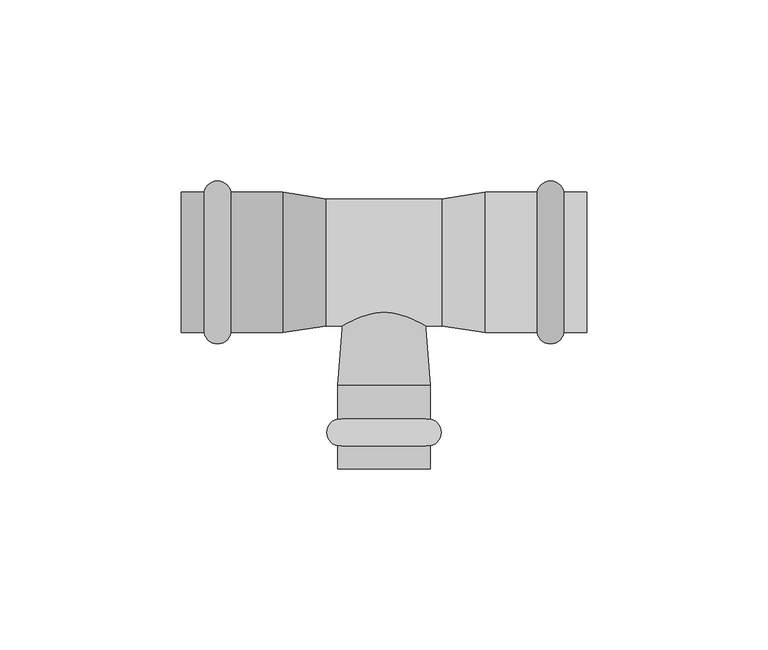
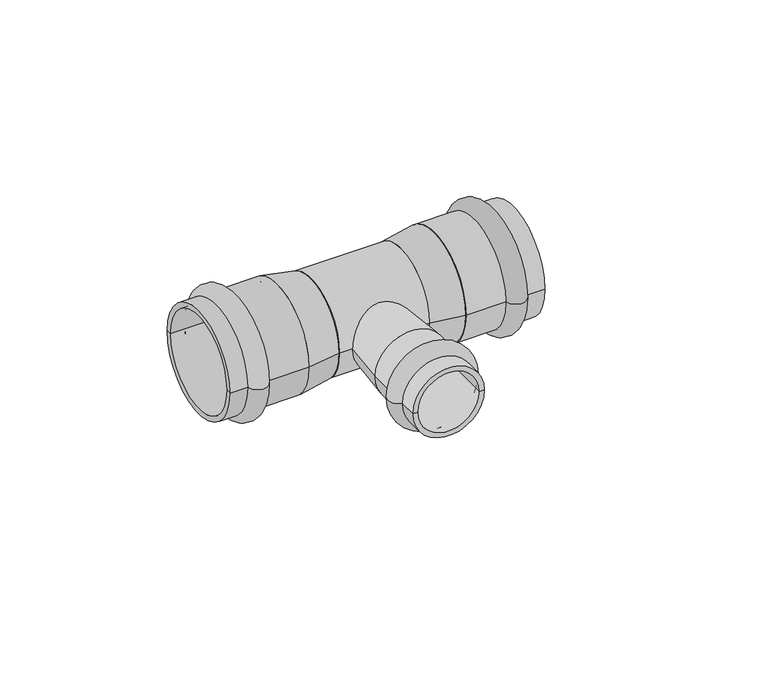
"""IFC4 building model written with IfcOpenShell, lengths in millimetres: pipe fitting geometry, VALTEC_VTi.931.I_Тройник_Ннержавеющая сталь : VTi.931.I."""

from ifc_helpers import new_model, si_unit, point, frame, origin, origin_2d, place, context, project, spatial, polyline, circle_curve, ellipse_curve, trimmed, segment, composite_curve, outline, extrude, source, transform, mapped, element, save
from ifc_brep_helpers import plane_surface, cylinder_surface, revolved_surface, advanced_brep


def pipe_fitting_c97b8c19(model_context):
    return source(origin(), model_context, "Body", "SolidModel", [
        advanced_brep(
        [(12.8, -50.6242346, 0.0), (-12.8, -50.6242346, 0.0), (-12.8, -43.2757654, 0.0), (12.8, -43.2757654, 0.0), (12.8, -57.0, 0.0), (-12.8, -57.0, 0.0), (11.0, -57.0, 0.0), (-11.0, -57.0, 0.0), (11.0, -34.0, 0.0), (-11.0, -34.0, 0.0), (12.8, -34.0, 0.0), (-12.8, -34.0, 0.0)],
        [
            (0, 1, circle_curve(frame((0.0, -50.6242346, 0.0), z_axis=(0.0, 1.0, 0.0), x_axis=(-1.0, 0.0, 0.0)), 12.8)),
            (1, 2, circle_curve(frame((-12.05, -46.95, 0.0), z_axis=(0.0, 0.0, -1.0), x_axis=(0.0, 1.0, 0.0)), 3.75)),
            (2, 3, circle_curve(frame((0.0, -43.2757654, 0.0), z_axis=(0.0, -1.0, 0.0), x_axis=(-1.0, 0.0, 0.0)), 12.8)),
            (3, 0, circle_curve(frame((12.05, -46.95, 0.0), z_axis=(0.0, 0.0, -1.0), x_axis=(0.0, 1.0, 0.0)), 3.75)),
            (1, 0, circle_curve(frame((0.0, -50.6242346, 0.0), z_axis=(0.0, 1.0, 0.0), x_axis=(-1.0, 0.0, 0.0)), 12.8)),
            (3, 2, circle_curve(frame((0.0, -43.2757654, 0.0), z_axis=(0.0, -1.0, 0.0), x_axis=(-1.0, 0.0, 0.0)), 12.8)),
            (4, 5, circle_curve(frame((0.0, -57.0, 0.0), z_axis=(0.0, 1.0, 0.0), x_axis=(-1.0, 0.0, 0.0)), 12.8)),
            (5, 1),
            (0, 4),
            (5, 4, circle_curve(frame((0.0, -57.0, 0.0), z_axis=(0.0, 1.0, 0.0), x_axis=(-1.0, 0.0, 0.0)), 12.8)),
            (6, 7, circle_curve(frame((0.0, -57.0, 0.0), z_axis=(0.0, 1.0, 0.0), x_axis=(-1.0, 0.0, 0.0)), 11.0)),
            (7, 5),
            (4, 6),
            (7, 6, circle_curve(frame((0.0, -57.0, 0.0), z_axis=(0.0, 1.0, 0.0), x_axis=(-1.0, 0.0, 0.0)), 11.0)),
            (8, 9, circle_curve(frame((0.0, -34.0, 0.0), z_axis=(0.0, 1.0, 0.0), x_axis=(-1.0, 0.0, 0.0)), 11.0)),
            (9, 7),
            (6, 8),
            (9, 8, circle_curve(frame((0.0, -34.0, 0.0), z_axis=(0.0, 1.0, 0.0), x_axis=(-1.0, 0.0, 0.0)), 11.0)),
            (10, 11, circle_curve(frame((0.0, -34.0, 0.0), z_axis=(0.0, 1.0, 0.0), x_axis=(-1.0, 0.0, 0.0)), 12.8)),
            (11, 9),
            (8, 10),
            (11, 10, circle_curve(frame((0.0, -34.0, 0.0), z_axis=(0.0, 1.0, 0.0), x_axis=(-1.0, 0.0, 0.0)), 12.8)),
            (2, 11),
            (10, 3),
        ],
        [
            revolved_surface(trimmed(ellipse_curve(frame((-12.05, -46.95, 0.0), z_axis=(0.0, 0.0, 1.0), x_axis=(0.0, 1.0, 0.0)), 3.75, 3.75), [point((-12.8, -43.2757654, 0.0))], [point((-12.8, -50.6242346, 0.0))], True, "CARTESIAN"), (0.0, -60.5364426, 0.0), (0.0, -1.0, 0.0)),
            cylinder_surface(frame((0.0, -60.5364426, 0.0), z_axis=(0.0, -1.0, 0.0), x_axis=(-1.0, 0.0, 0.0)), 12.8),
            plane_surface(frame((0.0, -57.0, 0.0), z_axis=(0.0, -1.0, 0.0), x_axis=(-1.0, 0.0, 0.0))),
            revolved_surface(polyline([(-11.0, -57.0, 0.0), (-11.0, -34.0, 0.0)]), (0.0, -60.5364426, 0.0), (0.0, -1.0, 0.0)),
            plane_surface(frame((0.0, -34.0, 0.0), z_axis=(0.0, 1.0, 0.0), x_axis=(-1.0, 0.0, 0.0))),
        ],
        [
            (0, [[1, 2, 3, 4]]),
            (0, [[5, -4, 6, -2]]),
            (1, [[7, 8, -1, 9]]),
            (1, [[10, -9, -5, -8]]),
            (2, [[11, 12, -7, 13]]),
            (2, [[14, -13, -10, -12]]),
            (3, [[15, 16, -11, 17]]),
            (3, [[18, -17, -14, -16]]),
            (4, [[19, 20, -15, 21]]),
            (4, [[22, -21, -18, -20]]),
            (1, [[-3, 23, -19, 24]]),
            (1, [[-6, -24, -22, -23]]),
        ],
    ),
        advanced_brep(
        [(49.6432371, 19.4, 0.0), (49.6432371, -19.4, 0.0), (42.2567629, -19.4, 0.0), (42.2567629, 19.4, 0.0), (56.0, 19.4, 0.0), (56.0, -19.4, 0.0), (56.0, 17.5, 0.0), (56.0, -17.5, 0.0), (28.0, 17.5, 0.0), (28.0, -17.5, 0.0), (28.0, 19.4, 0.0), (28.0, -19.4, 0.0)],
        [
            (0, 1, circle_curve(frame((49.6432371, 0.0, 0.0), z_axis=(-1.0, 0.0, 0.0), x_axis=(0.0, -1.0, 0.0)), 19.4)),
            (1, 2, circle_curve(frame((45.95, -18.75, 0.0), z_axis=(0.0, 0.0, -1.0), x_axis=(-1.0, 0.0, 0.0)), 3.75)),
            (2, 3, circle_curve(frame((42.2567629, 0.0, 0.0), z_axis=(1.0, 0.0, 0.0), x_axis=(0.0, -1.0, 0.0)), 19.4)),
            (3, 0, circle_curve(frame((45.95, 18.75, 0.0), z_axis=(0.0, 0.0, -1.0), x_axis=(-1.0, 0.0, 0.0)), 3.75)),
            (1, 0, circle_curve(frame((49.6432371, 0.0, 0.0), z_axis=(-1.0, 0.0, 0.0), x_axis=(0.0, -1.0, 0.0)), 19.4)),
            (3, 2, circle_curve(frame((42.2567629, 0.0, 0.0), z_axis=(1.0, 0.0, 0.0), x_axis=(0.0, -1.0, 0.0)), 19.4)),
            (4, 5, circle_curve(frame((56.0, 0.0, 0.0), z_axis=(-1.0, 0.0, 0.0), x_axis=(0.0, -1.0, 0.0)), 19.4)),
            (5, 1),
            (0, 4),
            (5, 4, circle_curve(frame((56.0, 0.0, 0.0), z_axis=(-1.0, 0.0, 0.0), x_axis=(0.0, -1.0, 0.0)), 19.4)),
            (6, 7, circle_curve(frame((56.0, 0.0, 0.0), z_axis=(-1.0, 0.0, 0.0), x_axis=(0.0, -1.0, 0.0)), 17.5)),
            (7, 5),
            (4, 6),
            (7, 6, circle_curve(frame((56.0, 0.0, 0.0), z_axis=(-1.0, 0.0, 0.0), x_axis=(0.0, -1.0, 0.0)), 17.5)),
            (8, 9, circle_curve(frame((28.0, 0.0, 0.0), z_axis=(-1.0, 0.0, 0.0), x_axis=(0.0, -1.0, 0.0)), 17.5)),
            (9, 7),
            (6, 8),
            (9, 8, circle_curve(frame((28.0, 0.0, 0.0), z_axis=(-1.0, 0.0, 0.0), x_axis=(0.0, -1.0, 0.0)), 17.5)),
            (10, 11, circle_curve(frame((28.0, 0.0, 0.0), z_axis=(-1.0, 0.0, 0.0), x_axis=(0.0, -1.0, 0.0)), 19.4)),
            (11, 9),
            (8, 10),
            (11, 10, circle_curve(frame((28.0, 0.0, 0.0), z_axis=(-1.0, 0.0, 0.0), x_axis=(0.0, -1.0, 0.0)), 19.4)),
            (2, 11),
            (10, 3),
        ],
        [
            revolved_surface(trimmed(ellipse_curve(frame((45.95, -18.75, 0.0), z_axis=(0.0, 0.0, 1.0), x_axis=(-1.0, 0.0, 0.0)), 3.75, 3.75), [point((42.2567629, -19.4, 0.0))], [point((49.6432371, -19.4, 0.0))], True, "CARTESIAN"), (59.5364426, 0.0, 0.0), (1.0, 0.0, 0.0)),
            cylinder_surface(frame((59.5364426, 0.0, 0.0), z_axis=(1.0, 0.0, 0.0), x_axis=(0.0, -1.0, 0.0)), 19.4),
            plane_surface(frame((56.0, 0.0, 0.0), z_axis=(1.0, 0.0, 0.0), x_axis=(0.0, -1.0, 0.0))),
            revolved_surface(polyline([(56.0, -17.5, 0.0), (28.0, -17.5, 0.0)]), (59.5364426, 0.0, 0.0), (1.0, 0.0, 0.0)),
            plane_surface(frame((28.0, 0.0, 0.0), z_axis=(-1.0, 0.0, 0.0), x_axis=(0.0, -1.0, 0.0))),
        ],
        [
            (0, [[1, 2, 3, 4]]),
            (0, [[5, -4, 6, -2]]),
            (1, [[7, 8, -1, 9]]),
            (1, [[10, -9, -5, -8]]),
            (2, [[11, 12, -7, 13]]),
            (2, [[14, -13, -10, -12]]),
            (3, [[15, 16, -11, 17]]),
            (3, [[18, -17, -14, -16]]),
            (4, [[19, 20, -15, 21]]),
            (4, [[22, -21, -18, -20]]),
            (1, [[-3, 23, -19, 24]]),
            (1, [[-6, -24, -22, -23]]),
        ],
    ),
        advanced_brep(
        [(-49.6432371, -19.4, 0.0), (-49.6432371, 19.4, 0.0), (-42.2567629, 19.4, 0.0), (-42.2567629, -19.4, 0.0), (-56.0, -19.4, 0.0), (-56.0, 19.4, 0.0), (-56.0, -17.5, 0.0), (-56.0, 17.5, 0.0), (-28.0, -17.5, 0.0), (-28.0, 17.5, 0.0), (-28.0, -19.4, 0.0), (-28.0, 19.4, 0.0)],
        [
            (0, 1, circle_curve(frame((-49.6432371, 0.0, 0.0), z_axis=(1.0, 0.0, 0.0), x_axis=(0.0, 1.0, 0.0)), 19.4)),
            (1, 2, circle_curve(frame((-45.95, 18.75, 0.0), z_axis=(0.0, 0.0, -1.0), x_axis=(1.0, 0.0, 0.0)), 3.75)),
            (2, 3, circle_curve(frame((-42.2567629, 0.0, 0.0), z_axis=(-1.0, 0.0, 0.0), x_axis=(0.0, 1.0, 0.0)), 19.4)),
            (3, 0, circle_curve(frame((-45.95, -18.75, 0.0), z_axis=(0.0, 0.0, -1.0), x_axis=(1.0, 0.0, 0.0)), 3.75)),
            (1, 0, circle_curve(frame((-49.6432371, 0.0, 0.0), z_axis=(1.0, 0.0, 0.0), x_axis=(0.0, 1.0, 0.0)), 19.4)),
            (3, 2, circle_curve(frame((-42.2567629, 0.0, 0.0), z_axis=(-1.0, 0.0, 0.0), x_axis=(0.0, 1.0, 0.0)), 19.4)),
            (4, 5, circle_curve(frame((-56.0, 0.0, 0.0), z_axis=(1.0, 0.0, 0.0), x_axis=(0.0, 1.0, 0.0)), 19.4)),
            (5, 1),
            (0, 4),
            (5, 4, circle_curve(frame((-56.0, 0.0, 0.0), z_axis=(1.0, 0.0, 0.0), x_axis=(0.0, 1.0, 0.0)), 19.4)),
            (6, 7, circle_curve(frame((-56.0, 0.0, 0.0), z_axis=(1.0, 0.0, 0.0), x_axis=(0.0, 1.0, 0.0)), 17.5)),
            (7, 5),
            (4, 6),
            (7, 6, circle_curve(frame((-56.0, 0.0, 0.0), z_axis=(1.0, 0.0, 0.0), x_axis=(0.0, 1.0, 0.0)), 17.5)),
            (8, 9, circle_curve(frame((-28.0, 0.0, 0.0), z_axis=(1.0, 0.0, 0.0), x_axis=(0.0, 1.0, 0.0)), 17.5)),
            (9, 7),
            (6, 8),
            (9, 8, circle_curve(frame((-28.0, 0.0, 0.0), z_axis=(1.0, 0.0, 0.0), x_axis=(0.0, 1.0, 0.0)), 17.5)),
            (10, 11, circle_curve(frame((-28.0, 0.0, 0.0), z_axis=(1.0, 0.0, 0.0), x_axis=(0.0, 1.0, 0.0)), 19.4)),
            (11, 9),
            (8, 10),
            (11, 10, circle_curve(frame((-28.0, 0.0, 0.0), z_axis=(1.0, 0.0, 0.0), x_axis=(0.0, 1.0, 0.0)), 19.4)),
            (2, 11),
            (10, 3),
        ],
        [
            revolved_surface(trimmed(ellipse_curve(frame((-45.95, 18.75, 0.0), z_axis=(0.0, 0.0, 1.0), x_axis=(1.0, 0.0, 0.0)), 3.75, 3.75), [point((-42.2567629, 19.4, 0.0))], [point((-49.6432371, 19.4, 0.0))], True, "CARTESIAN"), (-59.5364426, 0.0, 0.0), (-1.0, 0.0, 0.0)),
            cylinder_surface(frame((-59.5364426, 0.0, 0.0), z_axis=(-1.0, 0.0, 0.0), x_axis=(0.0, 1.0, 0.0)), 19.4),
            plane_surface(frame((-56.0, 0.0, 0.0), z_axis=(-1.0, 0.0, 0.0), x_axis=(0.0, 1.0, 0.0))),
            revolved_surface(polyline([(-56.0, 17.5, 0.0), (-28.0, 17.5, 0.0)]), (-59.5364426, 0.0, 0.0), (-1.0, 0.0, 0.0)),
            plane_surface(frame((-28.0, 0.0, 0.0), z_axis=(1.0, 0.0, 0.0), x_axis=(0.0, 1.0, 0.0))),
        ],
        [
            (0, [[1, 2, 3, 4]]),
            (0, [[5, -4, 6, -2]]),
            (1, [[7, 8, -1, 9]]),
            (1, [[10, -9, -5, -8]]),
            (2, [[11, 12, -7, 13]]),
            (2, [[14, -13, -10, -12]]),
            (3, [[15, 16, -11, 17]]),
            (3, [[18, -17, -14, -16]]),
            (4, [[19, 20, -15, 21]]),
            (4, [[22, -21, -18, -20]]),
            (1, [[-3, 23, -19, 24]]),
            (1, [[-6, -24, -22, -23]]),
        ],
    ),
        extrude(outline(composite_curve([segment(trimmed(circle_curve(origin_2d(), 17.5), [point((-17.5, 0.0))], [point((17.5, 0.0))], False, "CARTESIAN"), True, "CONTINUOUS"), segment(trimmed(circle_curve(origin_2d(), 17.5), [point((17.5, 0.0))], [point((-17.5, 0.0))], False, "CARTESIAN"), True, "CONTINUOUS")], self_intersect=False)), frame((-16.0, 0.0, 0.0), z_axis=(1.0, 0.0, 0.0), x_axis=(0.0, 1.0, 0.0)), (0.0, 0.0, 1.0), 32.0),
        advanced_brep(
        [(-12.8, -34.0, 0.0), (12.8, -34.0, 0.0), (-11.0, -11.3209826, 0.0), (11.0, -11.3209826, 0.0)],
        [
            (0, 1, circle_curve(frame((0.0, -34.0, 0.0), z_axis=(0.0, -1.0, 0.0), x_axis=(-1.0, 0.0, 0.0)), 12.8)),
            (1, 0, circle_curve(frame((0.0, -34.0, 0.0), z_axis=(0.0, -1.0, 0.0), x_axis=(1.0, 0.0, 0.0)), 12.8)),
            (2, 3, circle_curve(frame((0.0, -11.3209826, 0.0), z_axis=(0.0, 1.0, 0.0), x_axis=(1.0, 0.0, 0.0)), 11.0)),
            (3, 2, circle_curve(frame((0.0, -11.3209826, 0.0), z_axis=(0.0, 1.0, 0.0), x_axis=(-1.0, 0.0, 0.0)), 11.0)),
            (3, 1),
            (0, 2),
        ],
        [
            plane_surface(frame((0.0, -34.0, 0.0), z_axis=(0.0, -1.0, 0.0), x_axis=(0.0, 0.0, 1.0))),
            plane_surface(frame((0.0, -11.3209826, 0.0), z_axis=(0.0, 1.0, 0.0), x_axis=(0.0, 0.0, 1.0))),
            revolved_surface(polyline([(11.000000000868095, -11.320982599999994, 0.0), (12.8, -33.999999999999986, 0.0)]), (0.0, 127.2730127, 0.0), (0.0, -1.0, 0.0)),
            revolved_surface(polyline([(-11.000000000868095, -11.320982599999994, 0.0), (-12.8, -33.999999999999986, 0.0)]), (0.0, 127.2730127, 0.0), (0.0, -1.0, 0.0)),
        ],
        [
            (0, [[1, 2]]),
            (1, [[3, 4]]),
            (2, [[-4, 5, -1, 6]]),
            (3, [[-3, -6, -2, -5]]),
        ],
    ),
        extrude(outline(composite_curve([segment(trimmed(circle_curve(origin_2d(), 11.0), [point((0.0, -11.0))], [point((0.0, 11.0))], False, "CARTESIAN"), True, "CONTINUOUS"), segment(trimmed(circle_curve(origin_2d(), 11.0), [point((0.0, 11.0))], [point((0.0, -11.0))], False, "CARTESIAN"), True, "CONTINUOUS")], self_intersect=False)), frame((0.0, -11.3209826, 0.0), z_axis=(0.0, 1.0, 0.0), x_axis=(0.0, 0.0, 1.0)), (0.0, 0.0, 1.0), 11.3209826),
        advanced_brep(
        [(28.0, -19.4, 0.0), (28.0, 19.4, 0.0), (16.0, -17.5, 0.0), (16.0, 17.5, 0.0)],
        [
            (0, 1, circle_curve(frame((28.0, 0.0, 0.0), z_axis=(1.0, 0.0, 0.0), x_axis=(0.0, -1.0, 0.0)), 19.4)),
            (1, 0, circle_curve(frame((28.0, 0.0, 0.0), z_axis=(1.0, 0.0, 0.0), x_axis=(0.0, 1.0, 0.0)), 19.4)),
            (2, 3, circle_curve(frame((16.0, 0.0, 0.0), z_axis=(-1.0, 0.0, 0.0), x_axis=(0.0, 1.0, 0.0)), 17.5)),
            (3, 2, circle_curve(frame((16.0, 0.0, 0.0), z_axis=(-1.0, 0.0, 0.0), x_axis=(0.0, -1.0, 0.0)), 17.5)),
            (3, 1),
            (0, 2),
        ],
        [
            plane_surface(frame((28.0, 0.0, 0.0), z_axis=(1.0, 0.0, 0.0), x_axis=(0.0, 0.0, 1.0))),
            plane_surface(frame((16.0, 0.0, 0.0), z_axis=(-1.0, 0.0, 0.0), x_axis=(0.0, 0.0, 1.0))),
            revolved_surface(polyline([(16.0, 17.50000000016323, 0.0), (28.0, 19.4, 0.0)]), (-94.5263158, 0.0, 0.0), (1.0, 0.0, 0.0)),
            revolved_surface(polyline([(16.0, -17.50000000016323, 0.0), (28.0, -19.4, 0.0)]), (-94.5263158, 0.0, 0.0), (1.0, 0.0, 0.0)),
        ],
        [
            (0, [[1, 2]]),
            (1, [[3, 4]]),
            (2, [[-4, 5, -1, 6]]),
            (3, [[-3, -6, -2, -5]]),
        ],
    ),
        advanced_brep(
        [(-28.0, -19.4, 0.0), (-28.0, 19.4, 0.0), (-16.0, -17.5, 0.0), (-16.0, 17.5, 0.0)],
        [
            (0, 1, circle_curve(frame((-28.0, 0.0, 0.0), z_axis=(-1.0, 0.0, 0.0), x_axis=(0.0, -1.0, 0.0)), 19.4)),
            (1, 0, circle_curve(frame((-28.0, 0.0, 0.0), z_axis=(-1.0, 0.0, 0.0), x_axis=(0.0, 1.0, 0.0)), 19.4)),
            (2, 3, circle_curve(frame((-16.0, 0.0, 0.0), z_axis=(1.0, 0.0, 0.0), x_axis=(0.0, 1.0, 0.0)), 17.5)),
            (3, 2, circle_curve(frame((-16.0, 0.0, 0.0), z_axis=(1.0, 0.0, 0.0), x_axis=(0.0, -1.0, 0.0)), 17.5)),
            (2, 0),
            (1, 3),
        ],
        [
            plane_surface(frame((-28.0, 0.0, 0.0), z_axis=(-1.0, 0.0, 0.0), x_axis=(0.0, 0.0, -1.0))),
            plane_surface(frame((-16.0, 0.0, 0.0), z_axis=(1.0, 0.0, 0.0), x_axis=(0.0, 0.0, -1.0))),
            revolved_surface(polyline([(-16.0, -17.50000000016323, 0.0), (-28.0, -19.4, 0.0)]), (94.5263158, 0.0, 0.0), (-1.0, 0.0, 0.0)),
            revolved_surface(polyline([(-16.0, 17.50000000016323, 0.0), (-28.0, 19.4, 0.0)]), (94.5263158, 0.0, 0.0), (-1.0, 0.0, 0.0)),
        ],
        [
            (0, [[1, 2]]),
            (1, [[3, 4]]),
            (2, [[-3, 5, -2, 6]]),
            (3, [[-4, -6, -1, -5]]),
        ],
    ),
    ])


if __name__ == "__main__":
    model = new_model("IFC4")
    model_context = context("Model", 3, world=origin())
    ifc_project = project(units=[si_unit("LENGTHUNIT", "METRE", prefix="MILLI")], contexts=[model_context])
    site = spatial("IfcSite", under=ifc_project)
    building = spatial("IfcBuilding", under=site)
    placement = place(None, origin())
    pipe_fitting_shape = pipe_fitting_c97b8c19(model_context)
    element("IfcPipeFitting", 1, ObjectType="VALTEC_VTi.931.I_Тройник_Ннержавеющая сталь : VTi.931.I", at=placement, inside=building, context=model_context, shape_type="MappedRepresentation", body=[
        mapped(pipe_fitting_shape, transform((0.0, 0.0, 0.0), x_axis=(1.0, 0.0, 0.0), y_axis=(0.0, 1.0, 0.0), z_axis=(0.0, 0.0, 1.0))),
    ])
    save(model, "model.ifc")
